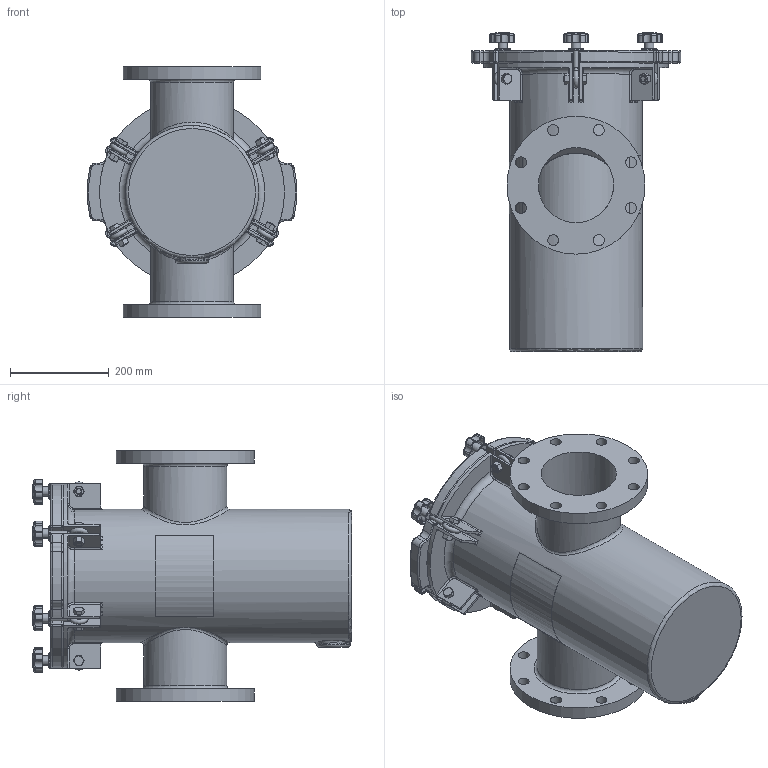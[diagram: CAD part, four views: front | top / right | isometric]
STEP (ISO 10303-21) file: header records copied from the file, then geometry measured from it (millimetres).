
FILE_DESCRIPTION(/* description */ ('STRAINER BODY'),/* implementation_level */ '2;1');
FILE_NAME(/* name */ '\\chntshnas1\IP_PUMPS\NeptuneBenson\Project Execution\WIP\Ready for delivery - Do not Disturb -Updated with metric Flange\Workspace\FG Straight Strainer\1500NBFG06R1.stp',/* time_stamp */ '2016-10-18T19:38:19+05:00',/* author */ ('20076253'),/* organization */ (''),/* preprocessor_version */ 'ST-DEVELOPER v16.1',/* originating_system */ 'Autodesk Inventor 2016',/* authorisation */ '');
FILE_SCHEMA (('AUTOMOTIVE_DESIGN { 1 0 10303 214 3 1 1 }'));
Length unit declared in the file: inch
Products named in the file (18): NBFG06BODYR1; 150NBCVR48R1; 150NBGSK48R1; Perforated Basket 10in; Bride (Ring) 10in; Baffle 10in; Handle 10in; Bottom Strainer 10in; NBBSK08T316; Nut- 1_2  UNC; Bolt-1_2 x 1 1_2  UNC; EyeBolt; Washer; Knob M10; Securing Assembly For FG without Brace; Label for 10.625 inch (Right); Label for 10.625 inch (Left); Guardian FG H&L Strainer (Inch)
Assembly tree (22 placements, depth 3):
  Guardian FG H&L Strainer (Inch)
    NBFG06BODYR1
    150NBCVR48R1
    150NBGSK48R1
    NBBSK08T316
      Perforated Basket 10in
      Bride (Ring) 10in
      Baffle 10in
      Handle 10in
      Bottom Strainer 10in
    Securing Assembly For FG without Brace  x6
      Nut- 1_2  UNC
      Bolt-1_2 x 1 1_2  UNC
      EyeBolt
      Washer
      Knob M10
    Label for 10.625 inch (Right)
    Label for 10.625 inch (Left)
Bounding box: 424.18 x 646.2 x 508 mm (x, y, z)
Volume: 11409712.7 mm3; surface area: 2761375.6 mm2
Topology: 40 solids, 40 shells, 1276 faces, 2922 edges, 1726 vertices
Faces by surface type: cylinder 466, plane 330, cone 138, torus 125, bspline 115, sphere 102
Full cylindrical faces by diameter (mm): 3.175 x10, 6.35 x1, 8.382 x6, 9.525 x12, 10.592 x6, 12.7 x6, 15.875 x12, 19 x12, 19.05 x6, 22.225 x16, 22.809 x1, 31.75 x6, 152.4 x2, 168.275 x2, 187.325 x2, 190.5 x1, 193.04 x1, 254 x2, 266.7 x1, 269.875 x1, 276.225 x1, 279.4 x2, 311.15 x1, 317.5 x1
Entity records: 25914 total; most frequent: CARTESIAN_POINT 9852, DIRECTION 3316, ORIENTED_EDGE 3018, EDGE_CURVE 1509, AXIS2_PLACEMENT_3D 1402, VERTEX_POINT 955, EDGE_LOOP 862, CIRCLE 709
